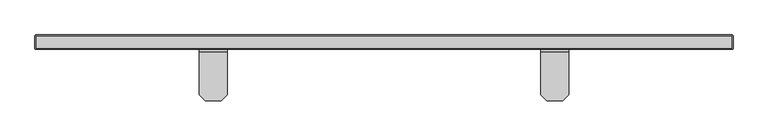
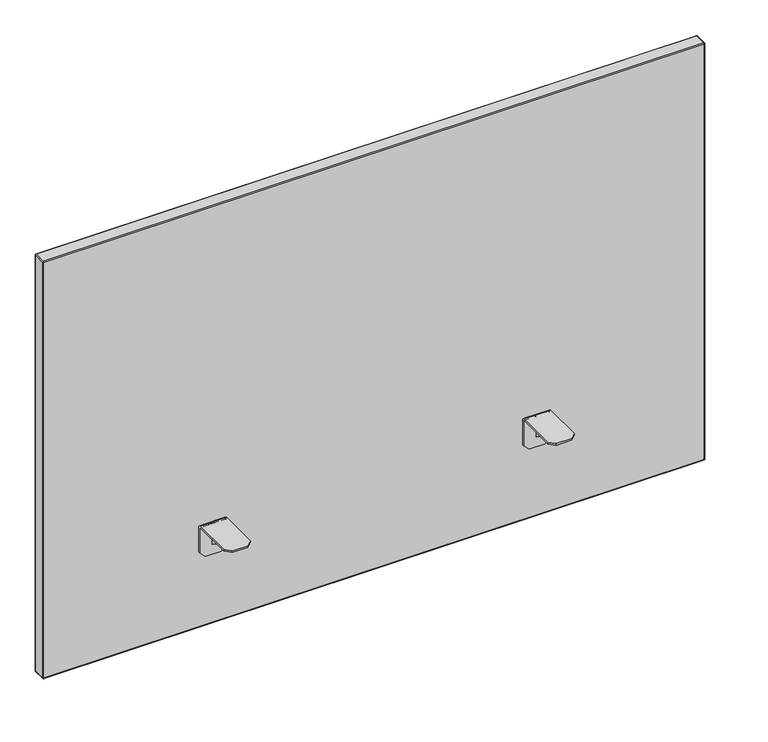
"""IFC4 building model written with IfcOpenShell, lengths in millimetres: furniture geometry, FREZZA_POP AD_Screen-for desk_Fabric : W1200 mm Structure_ZGBI - Embossed White & Finishing_D-King flex_XFGC."""

from ifc_helpers import new_model, si_unit, frame, origin, place, context, project, spatial, polyline, circle_curve, ellipse_curve, source, transform, mapped, element, save
from ifc_brep_helpers import plane_surface, cylinder_surface, revolved_surface, advanced_brep


def furniture_7627fab7(model_context):
    return source(origin(), model_context, "Body", "AdvancedBrep", [
        advanced_brep(
        [(1257.5, -8.0540949, 725.0), (1257.5, -81.55, 725.0), (1257.5, -81.55, 722.0), (1257.5, -8.0035457, 722.0), (1257.5, -6.55, 720.5464543), (1257.5, -6.55, 673.0), (1257.5, -3.55, 673.0), (1257.5, -3.55, 720.4959051), (1209.5, -8.0035457, 722.0), (1209.5, -81.55, 722.0), (1209.5, -81.55, 725.0), (1209.5, -8.0540949, 725.0), (1209.5, -3.55, 720.4959051), (1209.5, -3.55, 673.0), (1209.5, -6.55, 673.0), (1209.5, -6.55, 720.5464543), (1219.5, -91.55, 725.0), (1247.5, -91.55, 725.0), (1247.5, -3.55, 663.0), (1219.5, -3.55, 663.0), (1247.5, -6.55, 663.0), (1219.5, -6.55, 663.0), (1235.0, -6.55, 720.5464543), (1235.0, -6.55, 682.0), (1232.0, -6.55, 682.0), (1232.0, -6.55, 720.5464543), (1232.0, -8.0035457, 722.0), (1235.0, -8.0035457, 722.0), (1247.5, -91.55, 722.0), (1219.5, -91.55, 722.0), (1232.0, -69.55, 722.0), (1235.0, -69.55, 722.0)],
        [
            (0, 1),
            (1, 2),
            (2, 3),
            (3, 4, circle_curve(frame((1257.5, -8.0035457, 720.5464543), z_axis=(-1.0, 0.0, 0.0), x_axis=(0.0, -1.0, 0.0)), 1.4535457)),
            (4, 5),
            (5, 6),
            (6, 7),
            (7, 0, circle_curve(frame((1257.5, -8.0540949, 720.4959051), z_axis=(1.0, 0.0, 0.0), x_axis=(0.0, -1.0, 0.0)), 4.5040949)),
            (8, 9),
            (9, 10),
            (10, 11),
            (11, 12, circle_curve(frame((1209.5, -8.0540949, 720.4959051), z_axis=(-1.0, 0.0, 0.0), x_axis=(0.0, -1.0, 0.0)), 4.5040949)),
            (12, 13),
            (13, 14),
            (14, 15),
            (15, 8, circle_curve(frame((1209.5, -8.0035457, 720.5464543), z_axis=(1.0, 0.0, 0.0), x_axis=(0.0, -1.0, 0.0)), 1.4535457)),
            (10, 16),
            (16, 17),
            (17, 1),
            (0, 11),
            (7, 12),
            (6, 18),
            (18, 19),
            (19, 13),
            (18, 20),
            (20, 21),
            (21, 19),
            (4, 22),
            (22, 23),
            (23, 24),
            (24, 25),
            (25, 15),
            (14, 21),
            (20, 5),
            (25, 26, circle_curve(frame((1232.0, -8.0035457, 720.5464543), z_axis=(1.0, 0.0, 0.0), x_axis=(0.0, -1.0, 0.0)), 1.4535457)),
            (26, 8),
            (3, 27),
            (27, 22, circle_curve(frame((1235.0, -8.0035457, 720.5464543), z_axis=(-1.0, 0.0, 0.0), x_axis=(0.0, -1.0, 0.0)), 1.4535457)),
            (2, 28),
            (28, 29),
            (29, 9),
            (26, 30),
            (30, 31),
            (31, 27),
            (16, 29),
            (28, 17),
            (31, 23),
            (24, 30),
        ],
        [
            plane_surface(frame((1257.5, 1478.3708958, 725.0), z_axis=(1.0, 0.0, 0.0), x_axis=(0.0, 1.0, 0.0))),
            plane_surface(frame((1209.5, 1478.3708958, 725.0), z_axis=(-1.0, 0.0, 0.0), x_axis=(0.0, -1.0, 0.0))),
            plane_surface(frame((1257.5, -91.55, 725.0), z_axis=(0.0, 0.0, 1.0), x_axis=(-1.0, 0.0, 0.0))),
            cylinder_surface(frame((1209.5, -8.0540949, 720.4959051), z_axis=(1.0, 0.0, 0.0), x_axis=(0.0, -1.0, 0.0)), 4.5040949),
            plane_surface(frame((1257.5, -3.55, 720.4959051), z_axis=(0.0, 1.0, 0.0), x_axis=(-1.0, 0.0, 0.0))),
            plane_surface(frame((1257.5, -3.55, 663.0), z_axis=(0.0, 0.0, -1.0), x_axis=(-1.0, 0.0, 0.0))),
            plane_surface(frame((1257.5, -6.55, 663.0), z_axis=(0.0, -1.0, 0.0), x_axis=(-1.0, 0.0, 0.0))),
            revolved_surface(polyline([(1209.5, -9.4570914, 720.5464543), (1232.0, -9.4570914, 720.5464543)]), (1209.5, -8.0035457, 720.5464543), (-1.0, 0.0, 0.0)),
            revolved_surface(polyline([(1235.0, -9.4570914, 720.5464543), (1257.5, -9.4570914, 720.5464543)]), (1209.5, -8.0035457, 720.5464543), (-1.0, 0.0, 0.0)),
            plane_surface(frame((1257.5, -8.0035457, 722.0), z_axis=(0.0, 0.0, -1.0), x_axis=(-1.0, 0.0, 0.0))),
            plane_surface(frame((1257.5, -91.55, 722.0), z_axis=(0.0, -1.0, 0.0), x_axis=(-1.0, 0.0, 0.0))),
            plane_surface(frame((1257.5, -3.55, 673.0), z_axis=(0.7071067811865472, 0.0, -0.7071067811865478), x_axis=(0.0, -1.0, 0.0))),
            plane_surface(frame((1219.5, -3.55, 663.0), z_axis=(-0.7071067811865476, 0.0, -0.7071067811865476), x_axis=(0.0, -1.0, 0.0))),
            plane_surface(frame((1247.5, -91.55, 725.0), z_axis=(0.7071067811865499, -0.7071067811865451, 0.0), x_axis=(0.0, 0.0, -1.0))),
            plane_surface(frame((1209.5, -81.55, 725.0), z_axis=(-0.7071067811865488, -0.7071067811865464, 0.0), x_axis=(0.0, 0.0, -1.0))),
            plane_surface(frame((1235.0, -69.55, 722.0), z_axis=(1.0000000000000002, 0.0, 0.0), x_axis=(0.0, -0.8442128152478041, 0.5360081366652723))),
            plane_surface(frame((1232.0, -69.55, 722.0), z_axis=(-1.0000000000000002, 0.0, 0.0), x_axis=(0.0, 0.8442128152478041, -0.5360081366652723))),
            plane_surface(frame((1235.0, -6.55, 682.0), z_axis=(0.0, -0.5360081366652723, -0.8442128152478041), x_axis=(-1.0, 0.0, 0.0))),
        ],
        [
            (0, [[1, 2, 3, 4, 5, 6, 7, 8]]),
            (1, [[9, 10, 11, 12, 13, 14, 15, 16]]),
            (2, [[-11, 17, 18, 19, -1, 20]]),
            (3, [[21, -12, -20, -8]]),
            (4, [[-7, 22, 23, 24, -13, -21]]),
            (5, [[25, 26, 27, -23]]),
            (6, [[28, 29, 30, 31, 32, -15, 33, -26, 34, -5]]),
            (7, [[-32, 35, 36, -16]]),
            (8, [[37, 38, -28, -4]]),
            (9, [[39, 40, 41, -9, -36, 42, 43, 44, -37, -3]]),
            (10, [[45, -40, 46, -18]]),
            (11, [[-34, -25, -22, -6]]),
            (12, [[-24, -27, -33, -14]]),
            (13, [[-19, -46, -39, -2]]),
            (14, [[-41, -45, -17, -10]]),
            (15, [[-29, -38, -44, 47]]),
            (16, [[-42, -35, -31, 48]]),
            (17, [[-43, -48, -30, -47]]),
        ],
    ),
        advanced_brep(
        [(622.5, -8.0540949, 725.0), (622.5, -3.55, 720.4959051), (622.5, -3.55, 673.0), (622.5, -6.55, 673.0), (622.5, -6.55, 720.5464543), (622.5, -8.0035457, 722.0), (622.5, -81.55, 722.0), (622.5, -81.55, 725.0), (670.5, -8.0035457, 722.0), (670.5, -6.55, 720.5464543), (670.5, -6.55, 673.0), (670.5, -3.55, 673.0), (670.5, -3.55, 720.4959051), (670.5, -8.0540949, 725.0), (670.5, -81.55, 725.0), (670.5, -81.55, 722.0), (632.5, -91.55, 725.0), (660.5, -91.55, 725.0), (660.5, -3.55, 663.0), (632.5, -3.55, 663.0), (660.5, -6.55, 663.0), (632.5, -6.55, 663.0), (648.0, -6.55, 720.5464543), (648.0, -6.55, 682.0), (645.0, -6.55, 682.0), (645.0, -6.55, 720.5464543), (645.0, -8.0035457, 722.0), (648.0, -8.0035457, 722.0), (645.0, -69.55, 722.0), (648.0, -69.55, 722.0), (660.5, -91.55, 722.0), (632.5, -91.55, 722.0)],
        [
            (0, 1, circle_curve(frame((622.5, -8.0540949, 720.4959051), z_axis=(-1.0, 0.0, 0.0), x_axis=(0.0, -1.0, 0.0)), 4.5040949)),
            (1, 2),
            (2, 3),
            (3, 4),
            (4, 5, circle_curve(frame((622.5, -8.0035457, 720.5464543), z_axis=(1.0, 0.0, 0.0), x_axis=(0.0, -1.0, 0.0)), 1.4535457)),
            (5, 6),
            (6, 7),
            (7, 0),
            (8, 9, circle_curve(frame((670.5, -8.0035457, 720.5464543), z_axis=(-1.0, 0.0, 0.0), x_axis=(0.0, -1.0, 0.0)), 1.4535457)),
            (9, 10),
            (10, 11),
            (11, 12),
            (12, 13, circle_curve(frame((670.5, -8.0540949, 720.4959051), z_axis=(1.0, 0.0, 0.0), x_axis=(0.0, -1.0, 0.0)), 4.5040949)),
            (13, 14),
            (14, 15),
            (15, 8),
            (13, 0),
            (7, 16),
            (16, 17),
            (17, 14),
            (12, 1),
            (11, 18),
            (18, 19),
            (19, 2),
            (18, 20),
            (20, 21),
            (21, 19),
            (3, 21),
            (20, 10),
            (9, 22),
            (22, 23),
            (23, 24),
            (24, 25),
            (25, 4),
            (25, 26, circle_curve(frame((645.0, -8.0035457, 720.5464543), z_axis=(1.0, 0.0, 0.0), x_axis=(0.0, -1.0, 0.0)), 1.4535457)),
            (26, 5),
            (8, 27),
            (27, 22, circle_curve(frame((648.0, -8.0035457, 720.5464543), z_axis=(-1.0, 0.0, 0.0), x_axis=(0.0, -1.0, 0.0)), 1.4535457)),
            (26, 28),
            (28, 29),
            (29, 27),
            (15, 30),
            (30, 31),
            (31, 6),
            (16, 31),
            (30, 17),
            (24, 28),
            (29, 23),
        ],
        [
            plane_surface(frame((622.5, 1478.3708958, 725.0), z_axis=(-1.0, 0.0, 0.0), x_axis=(0.0, 1.0, 0.0))),
            plane_surface(frame((670.5, 1478.3708958, 725.0), z_axis=(1.0, 0.0, 0.0), x_axis=(0.0, -1.0, 0.0))),
            plane_surface(frame((622.5, -91.55, 725.0), z_axis=(0.0, 0.0, 1.0), x_axis=(1.0, 0.0, 0.0))),
            cylinder_surface(frame((670.5, -8.0540949, 720.4959051), z_axis=(-1.0, 0.0, 0.0), x_axis=(0.0, -1.0, 0.0)), 4.5040949),
            plane_surface(frame((622.5, -3.55, 720.4959051), z_axis=(0.0, 1.0, 0.0), x_axis=(1.0, 0.0, 0.0))),
            plane_surface(frame((622.5, -3.55, 663.0), z_axis=(0.0, 0.0, -1.0), x_axis=(1.0, 0.0, 0.0))),
            plane_surface(frame((622.5, -6.55, 663.0), z_axis=(0.0, -1.0, 0.0), x_axis=(1.0, 0.0, 0.0))),
            revolved_surface(polyline([(645.0, -9.4570914, 720.5464543), (622.5, -9.4570914, 720.5464543)]), (670.5, -8.0035457, 720.5464543), (1.0, 0.0, 0.0)),
            revolved_surface(polyline([(670.5, -9.4570914, 720.5464543), (648.0, -9.4570914, 720.5464543)]), (670.5, -8.0035457, 720.5464543), (1.0, 0.0, 0.0)),
            plane_surface(frame((622.5, -8.0035457, 722.0), z_axis=(0.0, 0.0, -1.0), x_axis=(1.0, 0.0, 0.0))),
            plane_surface(frame((622.5, -91.55, 722.0), z_axis=(0.0, -1.0, 0.0), x_axis=(1.0, 0.0, 0.0))),
            plane_surface(frame((622.5, -3.55, 673.0), z_axis=(-0.7071067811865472, 0.0, -0.7071067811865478), x_axis=(0.0, -1.0, 0.0))),
            plane_surface(frame((660.5, -3.55, 663.0), z_axis=(0.7071067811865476, 0.0, -0.7071067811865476), x_axis=(0.0, -1.0, 0.0))),
            plane_surface(frame((632.5, -91.55, 725.0), z_axis=(-0.7071067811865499, -0.7071067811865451, 0.0), x_axis=(0.0, 0.0, -1.0))),
            plane_surface(frame((670.5, -81.55, 725.0), z_axis=(0.7071067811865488, -0.7071067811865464, 0.0), x_axis=(0.0, 0.0, -1.0))),
            plane_surface(frame((645.0, -69.55, 722.0), z_axis=(-1.0000000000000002, 0.0, 0.0), x_axis=(0.0, -0.8442128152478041, 0.5360081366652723))),
            plane_surface(frame((648.0, -69.55, 722.0), z_axis=(1.0000000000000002, 0.0, 0.0), x_axis=(0.0, 0.8442128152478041, -0.5360081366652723))),
            plane_surface(frame((645.0, -6.55, 682.0), z_axis=(0.0, -0.5360081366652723, -0.8442128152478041), x_axis=(1.0, 0.0, 0.0))),
        ],
        [
            (0, [[1, 2, 3, 4, 5, 6, 7, 8]]),
            (1, [[9, 10, 11, 12, 13, 14, 15, 16]]),
            (2, [[17, -8, 18, 19, 20, -14]]),
            (3, [[-1, -17, -13, 21]]),
            (4, [[-21, -12, 22, 23, 24, -2]]),
            (5, [[-23, 25, 26, 27]]),
            (6, [[-4, 28, -26, 29, -10, 30, 31, 32, 33, 34]]),
            (7, [[-5, -34, 35, 36]]),
            (8, [[-9, 37, 38, -30]]),
            (9, [[-6, -36, 39, 40, 41, -37, -16, 42, 43, 44]]),
            (10, [[-19, 45, -43, 46]]),
            (11, [[-3, -24, -27, -28]]),
            (12, [[-11, -29, -25, -22]]),
            (13, [[-7, -44, -45, -18]]),
            (14, [[-15, -20, -46, -42]]),
            (15, [[47, -39, -35, -33]]),
            (16, [[48, -31, -38, -41]]),
            (17, [[-47, -32, -48, -40]]),
        ],
    ),
        advanced_brep(
        [(1538.0, 21.45, 1326.0), (1538.0, 21.45, 530.0), (342.0, 21.45, 530.0), (342.0, 21.45, 1326.0), (1538.0, -3.55, 530.0), (1538.0, -3.55, 1326.0), (342.0, -3.55, 1326.0), (342.0, -3.55, 530.0), (1538.0, -1.55, 528.0), (342.0, -1.55, 528.0), (342.0, 4.45, 528.0), (1538.0, 4.45, 528.0), (342.0, 19.45, 528.0), (1538.0, 19.45, 528.0), (1538.0, 13.45, 528.0), (342.0, 13.45, 528.0), (340.0, 19.45, 530.0), (340.0, -1.55, 530.0), (340.0, -1.55, 1326.0), (340.0, 19.45, 1326.0), (342.0, 19.45, 1328.0), (342.0, -1.55, 1328.0), (1538.0, -1.55, 1328.0), (1538.0, 19.45, 1328.0), (1540.0, 19.45, 1326.0), (1540.0, -1.55, 1326.0), (1540.0, -1.55, 530.0), (1540.0, 19.45, 530.0), (340.5857864, 20.8642136, 1327.4142136), (340.5857864, -2.9642136, 1327.4142136), (340.5857864, 20.8642136, 528.5857864), (340.5857864, -2.9642136, 528.5857864), (1539.4142136, 20.8642136, 1327.4142136), (1539.4142136, -2.9642136, 1327.4142136), (1539.4142136, -2.9642136, 528.5857864), (1539.4142136, 20.8642136, 528.5857864), (342.0, 4.45, 532.0), (342.0, 13.45, 532.0), (1538.0, 4.45, 532.0), (1538.0, 13.45, 532.0)],
        [
            (0, 1),
            (1, 2),
            (2, 3),
            (3, 0),
            (4, 5),
            (5, 6),
            (6, 7),
            (7, 4),
            (8, 9),
            (9, 10),
            (10, 11),
            (11, 8),
            (12, 13),
            (13, 14),
            (14, 15),
            (15, 12),
            (16, 17),
            (17, 18),
            (18, 19),
            (19, 16),
            (20, 21),
            (21, 22),
            (22, 23),
            (23, 20),
            (24, 25),
            (25, 26),
            (26, 27),
            (27, 24),
            (20, 28, ellipse_curve(frame((342.0, 19.45, 1326.0), z_axis=(-0.7071067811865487, -0.7071067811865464, 0.0), x_axis=(-0.7071067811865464, 0.7071067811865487, 0.0)), 2.8284271, 2.0)),
            (28, 19, ellipse_curve(frame((342.0, 19.45, 1326.0), z_axis=(0.0, -0.7071067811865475, 0.7071067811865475), x_axis=(0.0, 0.7071067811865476, 0.7071067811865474)), 2.8284271, 2.0)),
            (18, 29, ellipse_curve(frame((342.0, -1.55, 1326.0), z_axis=(0.0, 0.7071067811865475, 0.7071067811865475), x_axis=(0.0, 0.7071067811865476, -0.7071067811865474)), 2.8284271, 2.0)),
            (29, 21, ellipse_curve(frame((342.0, -1.55, 1326.0), z_axis=(-0.7071067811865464, 0.7071067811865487, 0.0), x_axis=(0.7071067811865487, 0.7071067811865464, 0.0)), 2.8284271, 2.0)),
            (16, 30, ellipse_curve(frame((342.0, 19.45, 530.0), z_axis=(0.0, -0.7071067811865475, -0.7071067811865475), x_axis=(0.0, 0.7071067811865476, -0.7071067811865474)), 2.8284271, 2.0)),
            (30, 12, ellipse_curve(frame((342.0, 19.45, 530.0), z_axis=(-0.7071067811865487, -0.7071067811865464, 0.0), x_axis=(-0.7071067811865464, 0.7071067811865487, 0.0)), 2.8284271, 2.0)),
            (15, 10),
            (9, 31, ellipse_curve(frame((342.0, -1.55, 530.0), z_axis=(-0.7071067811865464, 0.7071067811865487, 0.0), x_axis=(0.7071067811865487, 0.7071067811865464, 0.0)), 2.8284271, 2.0)),
            (31, 17, ellipse_curve(frame((342.0, -1.55, 530.0), z_axis=(0.0, 0.7071067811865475, -0.7071067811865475), x_axis=(0.0, 0.7071067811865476, 0.7071067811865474)), 2.8284271, 2.0)),
            (24, 32, ellipse_curve(frame((1538.0, 19.45, 1326.0), z_axis=(0.0, -0.7071067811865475, 0.7071067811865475), x_axis=(0.0, 0.7071067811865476, 0.7071067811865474)), 2.8284271, 2.0)),
            (32, 23, ellipse_curve(frame((1538.0, 19.45, 1326.0), z_axis=(0.7071067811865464, -0.7071067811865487, 0.0), x_axis=(0.7071067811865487, 0.7071067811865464, 0.0)), 2.8284271, 2.0)),
            (22, 33, ellipse_curve(frame((1538.0, -1.55, 1326.0), z_axis=(0.7071067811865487, 0.7071067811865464, 0.0), x_axis=(-0.7071067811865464, 0.7071067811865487, 0.0)), 2.8284271, 2.0)),
            (33, 25, ellipse_curve(frame((1538.0, -1.55, 1326.0), z_axis=(0.0, 0.7071067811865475, 0.7071067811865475), x_axis=(0.0, 0.7071067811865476, -0.7071067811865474)), 2.8284271, 2.0)),
            (26, 34, ellipse_curve(frame((1538.0, -1.55, 530.0), z_axis=(0.0, 0.7071067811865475, -0.7071067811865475), x_axis=(0.0, 0.7071067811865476, 0.7071067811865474)), 2.8284271, 2.0)),
            (34, 8, ellipse_curve(frame((1538.0, -1.55, 530.0), z_axis=(0.7071067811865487, 0.7071067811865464, 0.0), x_axis=(-0.7071067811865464, 0.7071067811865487, 0.0)), 2.8284271, 2.0)),
            (11, 14),
            (13, 35, ellipse_curve(frame((1538.0, 19.45, 530.0), z_axis=(0.7071067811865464, -0.7071067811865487, 0.0), x_axis=(0.7071067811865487, 0.7071067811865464, 0.0)), 2.8284271, 2.0)),
            (35, 27, ellipse_curve(frame((1538.0, 19.45, 530.0), z_axis=(0.0, -0.7071067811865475, -0.7071067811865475), x_axis=(0.0, 0.7071067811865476, -0.7071067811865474)), 2.8284271, 2.0)),
            (4, 34, ellipse_curve(frame((1538.0, -1.55, 530.0), z_axis=(0.7071067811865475, 0.0, 0.7071067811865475), x_axis=(0.7071067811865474, 0.0, -0.7071067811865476)), 2.8284271, 2.0)),
            (33, 5, ellipse_curve(frame((1538.0, -1.55, 1326.0), z_axis=(0.7071067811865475, 0.0, -0.7071067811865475), x_axis=(-0.7071067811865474, 0.0, -0.7071067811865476)), 2.8284271, 2.0)),
            (35, 1, ellipse_curve(frame((1538.0, 19.45, 530.0), z_axis=(0.7071067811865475, 0.0, 0.7071067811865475), x_axis=(0.7071067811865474, 0.0, -0.7071067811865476)), 2.8284271, 2.0)),
            (0, 32, ellipse_curve(frame((1538.0, 19.45, 1326.0), z_axis=(0.7071067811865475, 0.0, -0.7071067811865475), x_axis=(-0.7071067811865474, 0.0, -0.7071067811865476)), 2.8284271, 2.0)),
            (7, 31, ellipse_curve(frame((342.0, -1.55, 530.0), z_axis=(0.7071067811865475, 0.0, -0.7071067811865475), x_axis=(-0.7071067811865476, 0.0, -0.7071067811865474)), 2.8284271, 2.0)),
            (30, 2, ellipse_curve(frame((342.0, 19.45, 530.0), z_axis=(0.7071067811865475, 0.0, -0.7071067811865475), x_axis=(-0.7071067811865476, 0.0, -0.7071067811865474)), 2.8284271, 2.0)),
            (6, 29, ellipse_curve(frame((342.0, -1.55, 1326.0), z_axis=(-0.7071067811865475, 0.0, -0.7071067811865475), x_axis=(-0.7071067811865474, 0.0, 0.7071067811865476)), 2.8284271, 2.0)),
            (28, 3, ellipse_curve(frame((342.0, 19.45, 1326.0), z_axis=(-0.7071067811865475, 0.0, -0.7071067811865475), x_axis=(-0.7071067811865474, 0.0, 0.7071067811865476)), 2.8284271, 2.0)),
            (36, 10),
            (15, 37),
            (37, 36),
            (38, 39),
            (39, 14),
            (11, 38),
            (37, 39),
            (38, 36),
        ],
        [
            plane_surface(frame((342.0, 21.45, 528.0), z_axis=(0.0, 1.0, 0.0), x_axis=(-1.0, 0.0, 0.0))),
            plane_surface(frame((342.0, -3.55, 528.0), z_axis=(0.0, -1.0, 0.0), x_axis=(1.0, 0.0, 0.0))),
            plane_surface(frame((1538.0, 21.45, 528.0), z_axis=(0.0, 0.0, -1.0), x_axis=(0.0, -1.0, 0.0))),
            plane_surface(frame((340.0, 21.45, 530.0), z_axis=(-1.0, 0.0, 0.0), x_axis=(0.0, -1.0, 0.0))),
            plane_surface(frame((342.0, 21.45, 1328.0), z_axis=(0.0, 0.0, 1.0), x_axis=(0.0, -1.0, 0.0))),
            plane_surface(frame((1540.0, 21.45, 1326.0), z_axis=(1.0, 0.0, 0.0), x_axis=(0.0, -1.0, 0.0))),
            cylinder_surface(frame((342.0, -3.55, 1326.0), z_axis=(0.0, 1.0, 0.0), x_axis=(-1.0, 0.0, 0.0)), 2.0),
            cylinder_surface(frame((342.0, -3.55, 530.0), z_axis=(0.0, 1.0, 0.0), x_axis=(-1.0, 0.0, 0.0)), 2.0),
            cylinder_surface(frame((1538.0, -3.55, 1326.0), z_axis=(0.0, 1.0, 0.0), x_axis=(-1.0, 0.0, 0.0)), 2.0),
            cylinder_surface(frame((1538.0, -3.55, 530.0), z_axis=(0.0, 1.0, 0.0), x_axis=(-1.0, 0.0, 0.0)), 2.0),
            cylinder_surface(frame((1538.0, -1.55, 1328.0), z_axis=(0.0, 0.0, -1.0), x_axis=(-1.0, 0.0, 0.0)), 2.0),
            cylinder_surface(frame((1538.0, 19.45, 1328.0), z_axis=(0.0, 0.0, -1.0), x_axis=(-1.0, 0.0, 0.0)), 2.0),
            cylinder_surface(frame((1540.0, -1.55, 530.0), z_axis=(-1.0, 0.0, 0.0), x_axis=(0.0, 0.0, 1.0)), 2.0),
            cylinder_surface(frame((1540.0, 19.45, 530.0), z_axis=(-1.0, 0.0, 0.0), x_axis=(0.0, 0.0, 1.0)), 2.0),
            cylinder_surface(frame((342.0, -1.55, 528.0), z_axis=(0.0, 0.0, 1.0), x_axis=(1.0, 0.0, 0.0)), 2.0),
            cylinder_surface(frame((342.0, 19.45, 528.0), z_axis=(0.0, 0.0, 1.0), x_axis=(1.0, 0.0, 0.0)), 2.0),
            cylinder_surface(frame((340.0, -1.55, 1326.0), z_axis=(1.0, 0.0, 0.0), x_axis=(0.0, 0.0, -1.0)), 2.0),
            cylinder_surface(frame((340.0, 19.45, 1326.0), z_axis=(1.0, 0.0, 0.0), x_axis=(0.0, 0.0, -1.0)), 2.0),
            plane_surface(frame((342.0, 4.45, 532.0), z_axis=(1.0, 0.0, 0.0), x_axis=(0.0, 1.0, 0.0))),
            plane_surface(frame((1538.0, 4.45, 532.0), z_axis=(-1.0, 0.0, 0.0), x_axis=(0.0, -1.0, 0.0))),
            plane_surface(frame((342.0, 4.45, 532.0), z_axis=(0.0, 0.0, -1.0), x_axis=(1.0, 0.0, 0.0))),
            plane_surface(frame((342.0, 13.45, 532.0), z_axis=(0.0, -1.0, 0.0), x_axis=(1.0, 0.0, 0.0))),
            plane_surface(frame((342.0, 4.45, 528.0), z_axis=(0.0, 1.0, 0.0), x_axis=(1.0, 0.0, 0.0))),
        ],
        [
            (0, [[1, 2, 3, 4]]),
            (1, [[5, 6, 7, 8]]),
            (2, [[9, 10, 11, 12]]),
            (2, [[13, 14, 15, 16]]),
            (3, [[17, 18, 19, 20]]),
            (4, [[21, 22, 23, 24]]),
            (5, [[25, 26, 27, 28]]),
            (6, [[-21, 29, 30, -19, 31, 32]]),
            (7, [[-17, 33, 34, -16, 35, -10, 36, 37]]),
            (8, [[-25, 38, 39, -23, 40, 41]]),
            (9, [[-27, 42, 43, -12, 44, -14, 45, 46]]),
            (10, [[47, -42, -26, -41, 48, -5]]),
            (11, [[49, -1, 50, -38, -28, -46]]),
            (12, [[-47, -8, 51, -36, -9, -43]]),
            (13, [[-49, -45, -13, -34, 52, -2]]),
            (14, [[-51, -7, 53, -31, -18, -37]]),
            (15, [[-52, -33, -20, -30, 54, -3]]),
            (16, [[-53, -6, -48, -40, -22, -32]]),
            (17, [[-54, -29, -24, -39, -50, -4]]),
            (18, [[55, -35, 56, 57]]),
            (19, [[58, 59, -44, 60]]),
            (20, [[-57, 61, -58, 62]]),
            (21, [[-56, -15, -59, -61]]),
            (22, [[-55, -62, -60, -11]]),
        ],
    ),
    ])


if __name__ == "__main__":
    model = new_model("IFC4")
    model_context = context("Model", 3, world=origin())
    ifc_project = project(units=[si_unit("LENGTHUNIT", "METRE", prefix="MILLI")], contexts=[model_context])
    site = spatial("IfcSite", under=ifc_project)
    building = spatial("IfcBuilding", under=site)
    placement = place(None, origin())
    furniture_shape = furniture_7627fab7(model_context)
    element("IfcFurniture", 1, ObjectType="FREZZA_POP AD_Screen-for desk_Fabric : W1200 mm Structure_ZGBI - Embossed White & Finishing_D-King flex_XFGC", at=placement, inside=building, context=model_context, shape_type="MappedRepresentation", body=[
        mapped(furniture_shape, transform((0.0, 0.0, 0.0), x_axis=(1.0, 0.0, 0.0), y_axis=(0.0, 1.0, 0.0), z_axis=(0.0, 0.0, 1.0))),
    ])
    save(model, "model.ifc")
